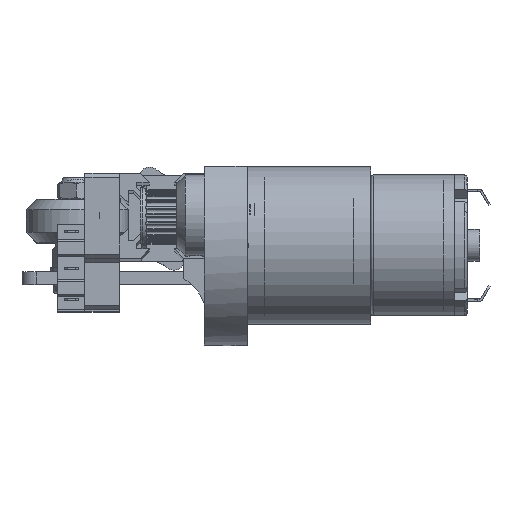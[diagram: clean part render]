
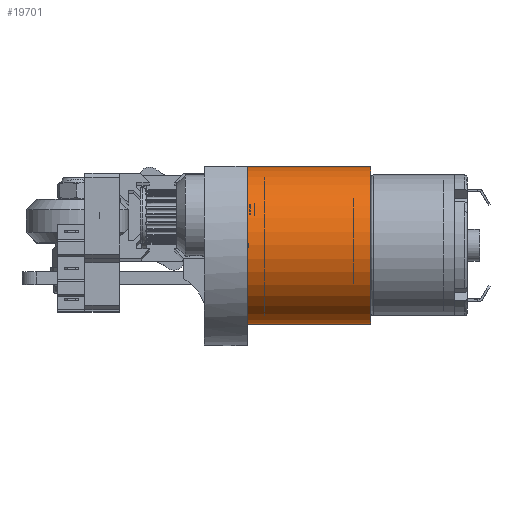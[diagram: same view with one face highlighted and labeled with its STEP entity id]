
A CAD part, top view. The second image highlights one B-rep face of the part: STEP entity #19701.
In plain terms, the highlighted cylindrical face has radius 18.5 mm (diameter 37 mm), a full revolution.
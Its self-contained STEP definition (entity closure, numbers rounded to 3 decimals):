
#2027=CYLINDRICAL_SURFACE('',#21825,18.5);
#2709=FACE_OUTER_BOUND('',#3923,.T.);
#3923=EDGE_LOOP('',(#16143,#16144,#16145,#16146));
#5464=LINE('',#33279,#6905);
#6905=VECTOR('',#25880,18.5);
#8326=CIRCLE('',#21826,18.5);
#8327=CIRCLE('',#21827,18.5);
#9793=VERTEX_POINT('',#33276);
#9794=VERTEX_POINT('',#33278);
#12073=EDGE_CURVE('',#9793,#9793,#8326,.T.);
#12074=EDGE_CURVE('',#9793,#9794,#5464,.T.);
#12075=EDGE_CURVE('',#9794,#9794,#8327,.T.);
#16143=ORIENTED_EDGE('',*,*,#12073,.F.);
#16144=ORIENTED_EDGE('',*,*,#12074,.T.);
#16145=ORIENTED_EDGE('',*,*,#12075,.T.);
#16146=ORIENTED_EDGE('',*,*,#12074,.F.);
#19701=ADVANCED_FACE('',(#2709),#2027,.T.);
#21825=AXIS2_PLACEMENT_3D('',#33275,#25876,#25877);
#21826=AXIS2_PLACEMENT_3D('',#33277,#25878,#25879);
#21827=AXIS2_PLACEMENT_3D('',#33280,#25881,#25882);
#25876=DIRECTION('center_axis',(0.,0.,1.));
#25877=DIRECTION('ref_axis',(1.,0.,0.));
#25878=DIRECTION('center_axis',(0.,0.,1.));
#25879=DIRECTION('ref_axis',(1.,0.,0.));
#25880=DIRECTION('',(0.,0.,-1.));
#25881=DIRECTION('center_axis',(0.,0.,1.));
#25882=DIRECTION('ref_axis',(1.,0.,0.));
#33275=CARTESIAN_POINT('Origin',(0.,0.,-29.));
#33276=CARTESIAN_POINT('',(-18.5,0.,0.));
#33277=CARTESIAN_POINT('Origin',(0.,0.,0.));
#33278=CARTESIAN_POINT('',(-18.5,0.,-29.));
#33279=CARTESIAN_POINT('',(-18.5,0.,-29.));
#33280=CARTESIAN_POINT('Origin',(0.,0.,-29.));
